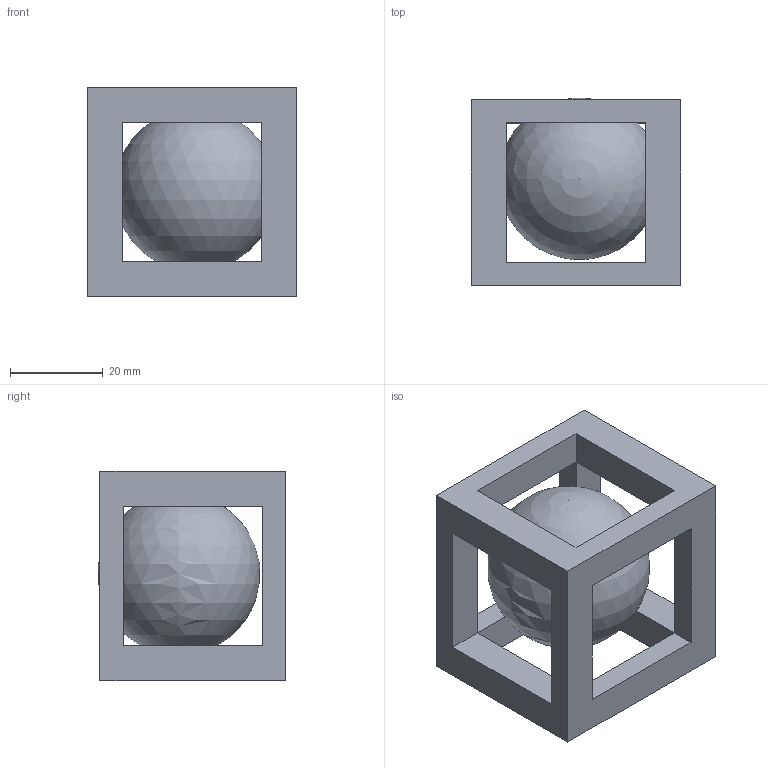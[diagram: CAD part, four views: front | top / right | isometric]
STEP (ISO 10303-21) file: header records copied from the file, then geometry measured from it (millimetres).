
FILE_DESCRIPTION(/* description */ (''),/* implementation_level */ '2;1');
FILE_NAME(/* name */ 'Ball in a Box.step',/* time_stamp */ '2026-04-28T11:11:04+03:00',/* author */ (''),/* organization */ (''),/* preprocessor_version */ 'ST-DEVELOPER v20.1',/* originating_system */ 'Autodesk Translation Framework v14.24.0.0',/* authorisation */ '');
FILE_SCHEMA (('AUTOMOTIVE_DESIGN { 1 0 10303 214 3 1 1 }'));
Length unit declared in the file: millimetre
Products named in the file (1): 2026-04-02-20-22-14-878
Bounding box: 45 x 40.37 x 45 mm (x, y, z)
Volume: 40449.3 mm3; surface area: 14498.5 mm2
Topology: 2 solids, 2 shells, 31 faces, 75 edges, 42 vertices
Faces by surface type: plane 30, sphere 1
Entity records: 900 total; most frequent: CARTESIAN_POINT 147, ORIENTED_EDGE 146, DIRECTION 138, EDGE_CURVE 73, LINE 72, VECTOR 72, VERTEX_POINT 42, EDGE_LOOP 37
